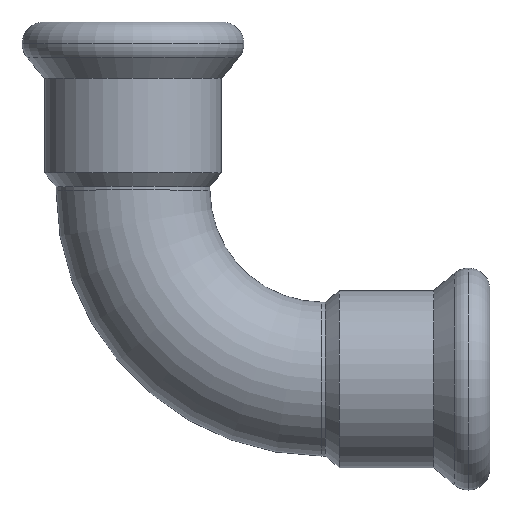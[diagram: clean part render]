
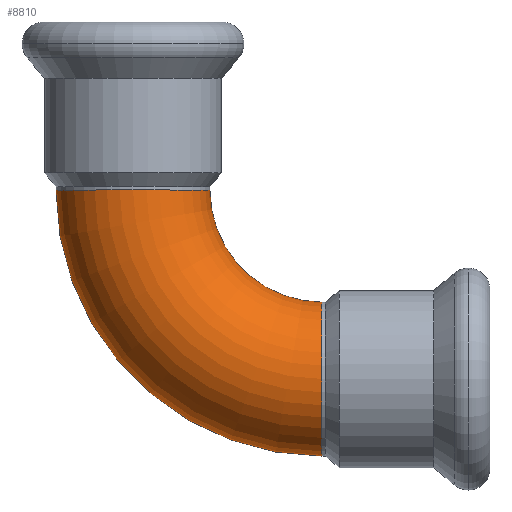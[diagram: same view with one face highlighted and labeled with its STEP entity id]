
A CAD part, top view. The second image highlights one B-rep face of the part: STEP entity #8810.
In plain terms, the highlighted toroidal (fillet/blend) face has major radius 27 mm and minor radius 11 mm.
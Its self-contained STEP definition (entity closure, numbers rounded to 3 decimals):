
#4880=CARTESIAN_POINT('',(-292.291,40.935,
0.));
#4890=DIRECTION('',(0.,0.,1.));
#4900=DIRECTION('',(-1.,0.,0.));
#4910=AXIS2_PLACEMENT_3D('',#4880,#4890,#4900);
#4920=TOROIDAL_SURFACE('',#4910,27.,11.);
#4930=CARTESIAN_POINT('',(-292.291,40.935,
0.));
#4940=DIRECTION('',(0.,0.,1.));
#4950=DIRECTION('',(-1.,0.,0.));
#4960=AXIS2_PLACEMENT_3D('',#4930,#4940,#4950);
#4970=CIRCLE('',#4960,16.);
#4980=CARTESIAN_POINT('',(-308.291,40.935,
0.));
#4990=VERTEX_POINT('',#4980);
#5000=CARTESIAN_POINT('',(-292.291,24.935,
0.));
#5010=VERTEX_POINT('',#5000);
#5020=EDGE_CURVE('',#4990,#5010,#4970,.T.);
#5090=CARTESIAN_POINT('',(-330.291,40.935,
0.));
#5100=VERTEX_POINT('',#5090);
#5130=CARTESIAN_POINT('',(-292.291,40.935,
0.));
#5140=DIRECTION('',(0.,0.,1.));
#5150=DIRECTION('',(-1.,0.,0.));
#5160=AXIS2_PLACEMENT_3D('',#5130,#5140,#5150);
#5170=CIRCLE('',#5160,38.);
#5180=CARTESIAN_POINT('',(-292.291,2.935,
0.));
#5190=VERTEX_POINT('',#5180);
#5200=EDGE_CURVE('',#5100,#5190,#5170,.T.);
#5220=CARTESIAN_POINT('',(-292.291,13.935,0.));
#5230=DIRECTION('',(1.,0.,0.));
#5240=DIRECTION('',(0.,-1.,0.));
#5250=AXIS2_PLACEMENT_3D('',#5220,#5230,#5240);
#5260=CIRCLE('',#5250,11.);
#7440=CARTESIAN_POINT('',(-319.291,40.935,0.));
#7450=DIRECTION('',(0.,-1.,0.));
#7460=DIRECTION('',(-1.,0.,0.));
#7470=AXIS2_PLACEMENT_3D('',#7440,#7450,#7460);
#7480=CIRCLE('',#7470,11.);
#7490=CARTESIAN_POINT('',(-319.291,40.935,11.));
#7500=VERTEX_POINT('',#7490);
#7510=EDGE_CURVE('',#7500,#5100,#7480,.T.);
#7670=EDGE_CURVE('',#4990,#7500,#7480,.T.);
#8260=EDGE_CURVE('',#5010,#5190,#5260,.T.);
#8740=ORIENTED_EDGE('',*,*,#5020,.F.);
#8750=ORIENTED_EDGE('',*,*,#8260,.F.);
#8760=ORIENTED_EDGE('',*,*,#5200,.T.);
#8770=ORIENTED_EDGE('',*,*,#7510,.T.);
#8780=ORIENTED_EDGE('',*,*,#7670,.T.);
#8790=EDGE_LOOP('',(#8780,#8770,#8760,#8750,#8740));
#8800=FACE_OUTER_BOUND('',#8790,.T.);
#8810=ADVANCED_FACE('',(#8800),#4920,.T.);
